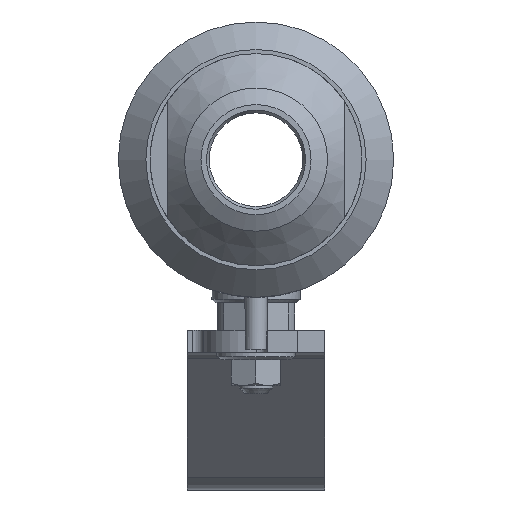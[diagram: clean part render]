
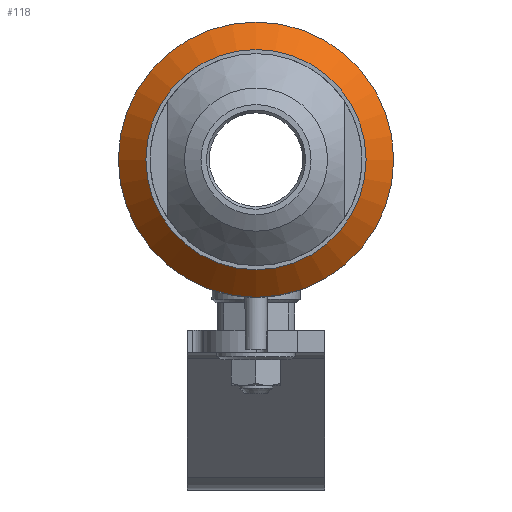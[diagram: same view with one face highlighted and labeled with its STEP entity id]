
A CAD part, left-side view. The second image highlights one B-rep face of the part: STEP entity #118.
In plain terms, the highlighted conical face has half-angle 45 degrees and reference radius 22.5 mm.
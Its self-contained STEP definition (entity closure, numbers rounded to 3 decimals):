
#118=ADVANCED_FACE('',(#934),#936,.T.);
#934=FACE_OUTER_BOUND('',#935,.T.);
#935=EDGE_LOOP('',(#1891,#1892,#1893,#1894));
#936=CONICAL_SURFACE('',#937,22.5,0.785);
#937=AXIS2_PLACEMENT_3D('',#938,#939,#940);
#938=CARTESIAN_POINT('',(-18.5,0.,0.));
#939=DIRECTION('',(1.,0.,0.));
#940=DIRECTION('',(0.,1.,0.));
#1891=ORIENTED_EDGE('',*,*,#2918,.T.);
#1892=ORIENTED_EDGE('',*,*,#2910,.T.);
#1893=ORIENTED_EDGE('',*,*,#2918,.F.);
#1894=ORIENTED_EDGE('',*,*,#2919,.F.);
#2910=EDGE_CURVE('',#3195,#3195,#3197,.T.);
#2918=EDGE_CURVE('',#3209,#3195,#3210,.T.);
#2919=EDGE_CURVE('',#3209,#3209,#3211,.T.);
#3195=VERTEX_POINT('',#4376);
#3197=CIRCLE('',#4380,25.);
#3209=VERTEX_POINT('',#4413);
#3210=LINE('',#4414,#4415);
#3211=CIRCLE('',#4417,20.);
#4376=CARTESIAN_POINT('',(-16.,-25.,0.));
#4380=AXIS2_PLACEMENT_3D('',#4381,#4382,#4383);
#4381=CARTESIAN_POINT('',(-16.,0.,0.));
#4382=DIRECTION('',(-1.,-0.,0.));
#4383=DIRECTION('',(0.,-1.,0.));
#4413=CARTESIAN_POINT('',(-21.,-20.,0.));
#4414=CARTESIAN_POINT('',(-21.,-20.,0.));
#4415=VECTOR('',#4416,1.);
#4416=DIRECTION('',(0.707,-0.707,0.));
#4417=AXIS2_PLACEMENT_3D('',#4418,#4419,#4420);
#4418=CARTESIAN_POINT('',(-21.,0.,0.));
#4419=DIRECTION('',(-1.,-0.,-0.));
#4420=DIRECTION('',(0.,-1.,0.));
